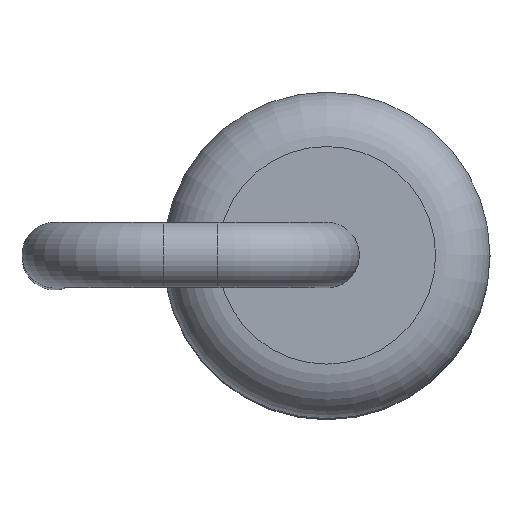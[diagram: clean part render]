
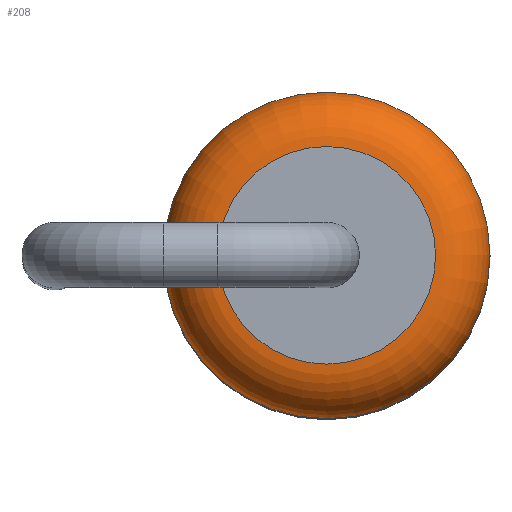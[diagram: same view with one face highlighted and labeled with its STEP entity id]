
A CAD part, top view. The second image highlights one B-rep face of the part: STEP entity #208.
In plain terms, the highlighted toroidal (fillet/blend) face has major radius 1 mm and minor radius 0.5 mm.
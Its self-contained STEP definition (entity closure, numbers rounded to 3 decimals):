
#208=ADVANCED_FACE('',(#377,#379),#381,.T.);
#377=FACE_OUTER_BOUND('',#378,.T.);
#378=EDGE_LOOP('',(#468));
#379=FACE_OUTER_BOUND('',#380,.T.);
#380=EDGE_LOOP('',(#469));
#381=TOROIDAL_SURFACE('',#382,1.,0.5);
#382=AXIS2_PLACEMENT_3D('',#383,#384,#385);
#383=CARTESIAN_POINT('',(0.,0.,3.));
#384=DIRECTION('',(0.,0.,1.));
#385=DIRECTION('',(1.,0.,0.));
#468=ORIENTED_EDGE('',*,*,#493,.T.);
#469=ORIENTED_EDGE('',*,*,#494,.F.);
#493=EDGE_CURVE('',#521,#521,#522,.T.);
#494=EDGE_CURVE('',#523,#523,#524,.T.);
#521=VERTEX_POINT('',#587);
#522=CIRCLE('',#588,1.5);
#523=VERTEX_POINT('',#592);
#524=CIRCLE('',#593,1.);
#587=CARTESIAN_POINT('',(1.5,0.,3.));
#588=AXIS2_PLACEMENT_3D('',#589,#590,#591);
#589=CARTESIAN_POINT('',(0.,0.,3.));
#590=DIRECTION('',(0.,0.,1.));
#591=DIRECTION('',(1.,0.,0.));
#592=CARTESIAN_POINT('',(1.,0.,3.5));
#593=AXIS2_PLACEMENT_3D('',#594,#595,#596);
#594=CARTESIAN_POINT('',(0.,0.,3.5));
#595=DIRECTION('',(0.,0.,1.));
#596=DIRECTION('',(1.,0.,0.));
